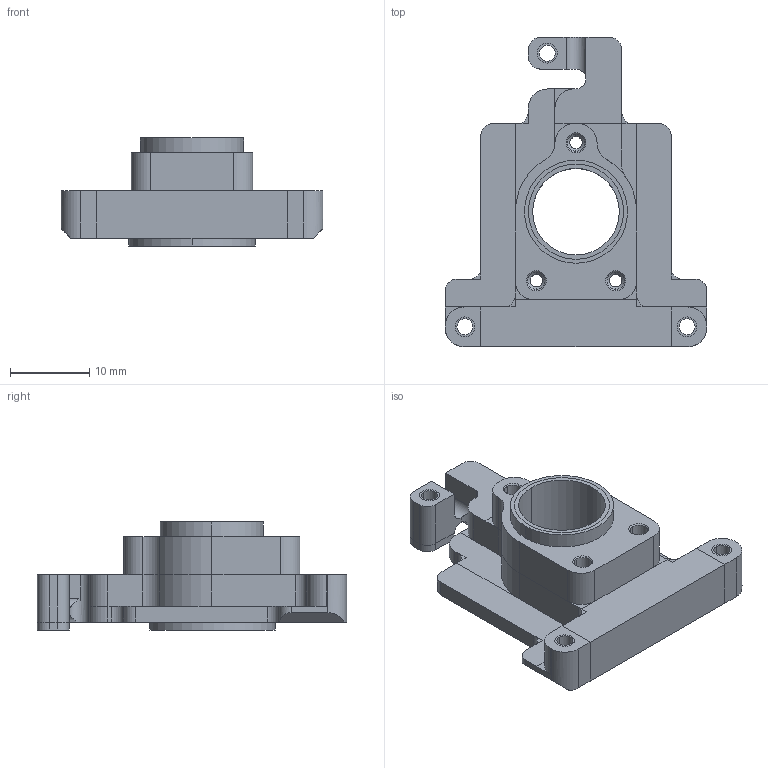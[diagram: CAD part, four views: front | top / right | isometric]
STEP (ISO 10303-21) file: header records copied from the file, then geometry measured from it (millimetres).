
FILE_DESCRIPTION(/* description */ ('VariCAD 2010-3.03 AP-214'),/* implementation_level */ '2;1');
FILE_NAME(/* name */ '0353-19-42',/* time_stamp */ '2011-01-20T22:43:52-07:00',/* author */ (''),/* organization */ (''),/* preprocessor_version */ 'ST-DEVELOPER v12',/* originating_system */ 'VariCAD 2010-3.03; kernel version (20100102)',/* authorisation */ '');
FILE_SCHEMA (('AUTOMOTIVE_DESIGN'));
Length unit declared in the file: millimetre
Products named in the file (1): Part
Bounding box: 33 x 39 x 13.65 mm (x, y, z)
Volume: 4136.3 mm3; surface area: 5597.2 mm2
Topology: 11 solids, 11 shells, 255 faces, 586 edges, 358 vertices
Faces by surface type: cylinder 126, plane 103, cone 26
Entity records: 9211 total; most frequent: DIRECTION 1368, CARTESIAN_POINT 1273, ORIENTED_EDGE 1172, EDGE_CURVE 586, AXIS2_PLACEMENT_3D 522, VERTEX_POINT 358, LINE 324, VECTOR 324
